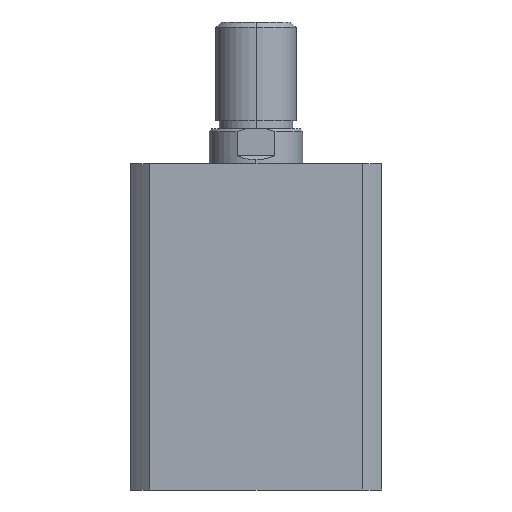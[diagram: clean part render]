
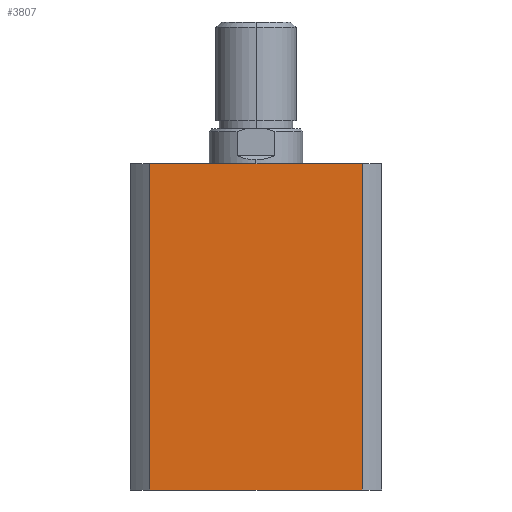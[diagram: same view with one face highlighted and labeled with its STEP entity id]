
A CAD part, left-side view. The second image highlights one B-rep face of the part: STEP entity #3807.
In plain terms, the highlighted planar face has unit normal (-1, 0, 0).
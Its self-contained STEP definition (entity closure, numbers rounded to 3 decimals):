
#236 = CARTESIAN_POINT ( 'NONE',  ( -47., -39.664, 122. ) ) ;
#240 = CARTESIAN_POINT ( 'NONE',  ( -47., 39.664, 122. ) ) ;
#259 = CARTESIAN_POINT ( 'NONE',  ( -47., 39.664, 0. ) ) ;
#260 = CARTESIAN_POINT ( 'NONE',  ( -47., -39.664, 0. ) ) ;
#302 = AXIS2_PLACEMENT_3D ( 'NONE', #3647, #3652, #3653 ) ;
#531 = DIRECTION ( 'NONE',  ( 0., -1., 0. ) ) ;
#532 = CARTESIAN_POINT ( 'NONE',  ( -47., 0., 122. ) ) ;
#850 = ORIENTED_EDGE ( 'NONE', *, *, #2534, .F. ) ;
#852 = ORIENTED_EDGE ( 'NONE', *, *, #1709, .F. ) ;
#854 = ORIENTED_EDGE ( 'NONE', *, *, #1707, .T. ) ;
#855 = ORIENTED_EDGE ( 'NONE', *, *, #1708, .T. ) ;
#1707 = EDGE_CURVE ( 'NONE', #2748, #2769, #2892, .T. ) ;
#1708 = EDGE_CURVE ( 'NONE', #2769, #2770, #2890, .T. ) ;
#1709 = EDGE_CURVE ( 'NONE', #2749, #2770, #2895, .T. ) ;
#2150 = LINE ( 'NONE', #532, #2152 ) ;
#2152 = VECTOR ( 'NONE', #531, 1000. ) ;
#2230 = FACE_OUTER_BOUND ( 'NONE', #2864, .T. ) ;
#2534 = EDGE_CURVE ( 'NONE', #2748, #2749, #2150, .T. ) ;
#2601 = DIRECTION ( 'NONE',  ( 0., 0., -1. ) ) ;
#2603 = CARTESIAN_POINT ( 'NONE',  ( -47., 39.664, 122. ) ) ;
#2604 = CARTESIAN_POINT ( 'NONE',  ( -47., 0., 0. ) ) ;
#2609 = DIRECTION ( 'NONE',  ( 0., -1., 0. ) ) ;
#2610 = CARTESIAN_POINT ( 'NONE',  ( -47., -39.664, 122. ) ) ;
#2612 = DIRECTION ( 'NONE',  ( 0., 0., -1. ) ) ;
#2748 = VERTEX_POINT ( 'NONE', #240 ) ;
#2749 = VERTEX_POINT ( 'NONE', #236 ) ;
#2769 = VERTEX_POINT ( 'NONE', #259 ) ;
#2770 = VERTEX_POINT ( 'NONE', #260 ) ;
#2864 = EDGE_LOOP ( 'NONE', ( #855, #852, #850, #854 ) ) ;
#2890 = LINE ( 'NONE', #2604, #2896 ) ;
#2892 = LINE ( 'NONE', #2603, #2894 ) ;
#2894 = VECTOR ( 'NONE', #2601, 1000. ) ;
#2895 = LINE ( 'NONE', #2610, #2898 ) ;
#2896 = VECTOR ( 'NONE', #2609, 1000. ) ;
#2898 = VECTOR ( 'NONE', #2612, 1000. ) ;
#3647 = CARTESIAN_POINT ( 'NONE',  ( -47., 0., 122. ) ) ;
#3650 = PLANE ( 'NONE',  #302 ) ;
#3652 = DIRECTION ( 'NONE',  ( 1., 0., 0. ) ) ;
#3653 = DIRECTION ( 'NONE',  ( 0., 0., -1. ) ) ;
#3807 = ADVANCED_FACE ( 'NONE', ( #2230 ), #3650, .F. ) ;
